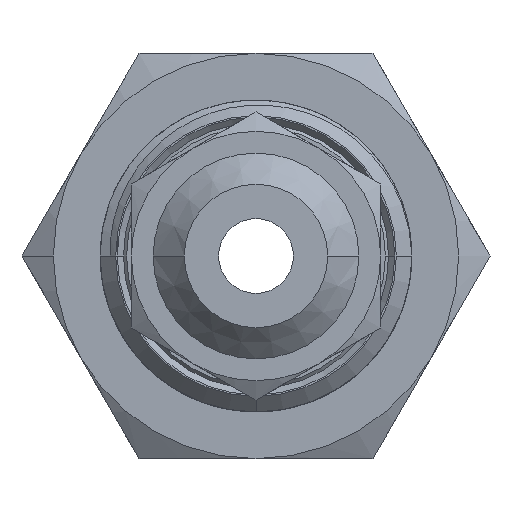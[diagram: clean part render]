
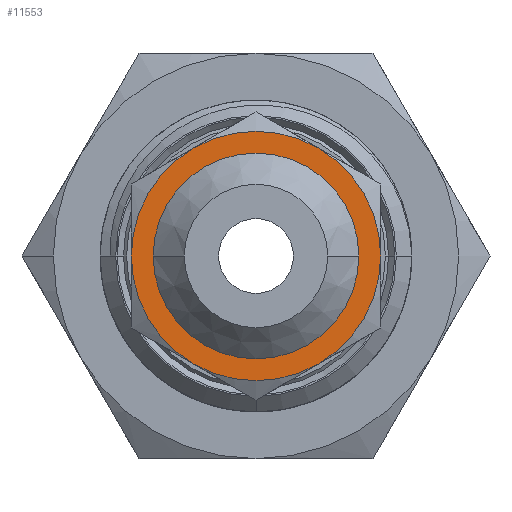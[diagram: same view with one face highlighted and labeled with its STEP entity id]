
A CAD part, front view. The second image highlights one B-rep face of the part: STEP entity #11553.
In plain terms, the highlighted planar face has unit normal (0, -1, 0).
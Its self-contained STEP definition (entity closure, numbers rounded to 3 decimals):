
#555 = DIRECTION ( 'NONE',  ( 0.5, 0., -0.866 ) ) ;
#609 = ORIENTED_EDGE ( 'NONE', *, *, #6695, .T. ) ;
#930 = ORIENTED_EDGE ( 'NONE', *, *, #11061, .T. ) ;
#1128 = DIRECTION ( 'NONE',  ( 0., 1., 0. ) ) ;
#1339 = VERTEX_POINT ( 'NONE', #10865 ) ;
#1367 = DIRECTION ( 'NONE',  ( 0., -1., 0. ) ) ;
#1416 = DIRECTION ( 'NONE',  ( 0., -1., 0. ) ) ;
#1868 = CARTESIAN_POINT ( 'NONE',  ( 0., -32., 0. ) ) ;
#2079 = DIRECTION ( 'NONE',  ( 0., -1., 0. ) ) ;
#2299 = ORIENTED_EDGE ( 'NONE', *, *, #12250, .T. ) ;
#2569 = ORIENTED_EDGE ( 'NONE', *, *, #5196, .T. ) ;
#3079 = CARTESIAN_POINT ( 'NONE',  ( 0., -32., 0. ) ) ;
#3309 = DIRECTION ( 'NONE',  ( -0.5, 0., 0.866 ) ) ;
#3695 = ORIENTED_EDGE ( 'NONE', *, *, #8869, .T. ) ;
#3884 = DIRECTION ( 'NONE',  ( 0., -1., 0. ) ) ;
#4204 = ORIENTED_EDGE ( 'NONE', *, *, #4895, .T. ) ;
#4263 = CARTESIAN_POINT ( 'NONE',  ( -2., -32., 3.464 ) ) ;
#4389 = VERTEX_POINT ( 'NONE', #6500 ) ;
#4507 = VERTEX_POINT ( 'NONE', #6835 ) ;
#4579 = CIRCLE ( 'NONE', #7217, 4. ) ;
#4736 = DIRECTION ( 'NONE',  ( -1., 0., 0. ) ) ;
#4769 = VERTEX_POINT ( 'NONE', #8953 ) ;
#4867 = VERTEX_POINT ( 'NONE', #14156 ) ;
#4895 = EDGE_CURVE ( 'NONE', #12730, #4867, #11986, .T. ) ;
#5018 = CARTESIAN_POINT ( 'NONE',  ( 2., -32., -3.464 ) ) ;
#5196 = EDGE_CURVE ( 'NONE', #11482, #4507, #14075, .T. ) ;
#5203 = CARTESIAN_POINT ( 'NONE',  ( 0., -32., 0. ) ) ;
#5482 = FACE_BOUND ( 'NONE', #12348, .T. ) ;
#5596 = AXIS2_PLACEMENT_3D ( 'NONE', #6073, #1128, #6150 ) ;
#5907 = CIRCLE ( 'NONE', #9073, 4. ) ;
#5950 = CIRCLE ( 'NONE', #12539, 4. ) ;
#6055 = DIRECTION ( 'NONE',  ( 0.5, 0., 0.866 ) ) ;
#6073 = CARTESIAN_POINT ( 'NONE',  ( 0., -32., 0. ) ) ;
#6111 = DIRECTION ( 'NONE',  ( 1., 0., 0. ) ) ;
#6150 = DIRECTION ( 'NONE',  ( 1., 0., 0. ) ) ;
#6345 = DIRECTION ( 'NONE',  ( 0., -1., 0. ) ) ;
#6500 = CARTESIAN_POINT ( 'NONE',  ( 4., -32., 0. ) ) ;
#6531 = AXIS2_PLACEMENT_3D ( 'NONE', #10142, #3884, #6111 ) ;
#6627 = CARTESIAN_POINT ( 'NONE',  ( 0., -32., 5.935 ) ) ;
#6668 = AXIS2_PLACEMENT_3D ( 'NONE', #8215, #15968, #555 ) ;
#6695 = EDGE_CURVE ( 'NONE', #4769, #11482, #5950, .T. ) ;
#6835 = CARTESIAN_POINT ( 'NONE',  ( -4., -32., 0. ) ) ;
#7217 = AXIS2_PLACEMENT_3D ( 'NONE', #12072, #15948, #8439 ) ;
#7258 = CARTESIAN_POINT ( 'NONE',  ( -3.25, -32., 0. ) ) ;
#7760 = AXIS2_PLACEMENT_3D ( 'NONE', #6627, #1367, #11415 ) ;
#8128 = EDGE_CURVE ( 'NONE', #4389, #4769, #14445, .T. ) ;
#8215 = CARTESIAN_POINT ( 'NONE',  ( 0., -32., 0. ) ) ;
#8439 = DIRECTION ( 'NONE',  ( -0.5, 0., -0.866 ) ) ;
#8612 = ORIENTED_EDGE ( 'NONE', *, *, #8128, .T. ) ;
#8869 = EDGE_CURVE ( 'NONE', #15089, #4389, #15616, .T. ) ;
#8953 = CARTESIAN_POINT ( 'NONE',  ( 2., -32., 3.464 ) ) ;
#9073 = AXIS2_PLACEMENT_3D ( 'NONE', #12548, #6345, #15177 ) ;
#10142 = CARTESIAN_POINT ( 'NONE',  ( 0., -32., 0. ) ) ;
#10865 = CARTESIAN_POINT ( 'NONE',  ( -2., -32., -3.464 ) ) ;
#11061 = EDGE_CURVE ( 'NONE', #1339, #15089, #4579, .T. ) ;
#11377 = ORIENTED_EDGE ( 'NONE', *, *, #14205, .T. ) ;
#11415 = DIRECTION ( 'NONE',  ( -1., 0., 0. ) ) ;
#11482 = VERTEX_POINT ( 'NONE', #4263 ) ;
#11553 = ADVANCED_FACE ( 'NONE', ( #5482, #12988 ), #14058, .T. ) ;
#11975 = AXIS2_PLACEMENT_3D ( 'NONE', #3079, #2079, #3309 ) ;
#11986 = CIRCLE ( 'NONE', #12778, 3.25 ) ;
#12072 = CARTESIAN_POINT ( 'NONE',  ( 0., -32., 0. ) ) ;
#12250 = EDGE_CURVE ( 'NONE', #4507, #1339, #5907, .T. ) ;
#12348 = EDGE_LOOP ( 'NONE', ( #4204, #11377 ) ) ;
#12539 = AXIS2_PLACEMENT_3D ( 'NONE', #5203, #1416, #6055 ) ;
#12548 = CARTESIAN_POINT ( 'NONE',  ( 0., -32., 0. ) ) ;
#12730 = VERTEX_POINT ( 'NONE', #7258 ) ;
#12778 = AXIS2_PLACEMENT_3D ( 'NONE', #1868, #15719, #4736 ) ;
#12967 = EDGE_LOOP ( 'NONE', ( #2299, #930, #3695, #8612, #609, #2569 ) ) ;
#12988 = FACE_OUTER_BOUND ( 'NONE', #12967, .T. ) ;
#14058 = PLANE ( 'NONE',  #7760 ) ;
#14075 = CIRCLE ( 'NONE', #11975, 4. ) ;
#14156 = CARTESIAN_POINT ( 'NONE',  ( 3.25, -32., 0. ) ) ;
#14205 = EDGE_CURVE ( 'NONE', #4867, #12730, #16135, .T. ) ;
#14445 = CIRCLE ( 'NONE', #6531, 4. ) ;
#15089 = VERTEX_POINT ( 'NONE', #5018 ) ;
#15177 = DIRECTION ( 'NONE',  ( -1., 0., 0. ) ) ;
#15616 = CIRCLE ( 'NONE', #6668, 4. ) ;
#15719 = DIRECTION ( 'NONE',  ( 0., 1., 0. ) ) ;
#15948 = DIRECTION ( 'NONE',  ( 0., -1., 0. ) ) ;
#15968 = DIRECTION ( 'NONE',  ( 0., -1., 0. ) ) ;
#16135 = CIRCLE ( 'NONE', #5596, 3.25 ) ;
